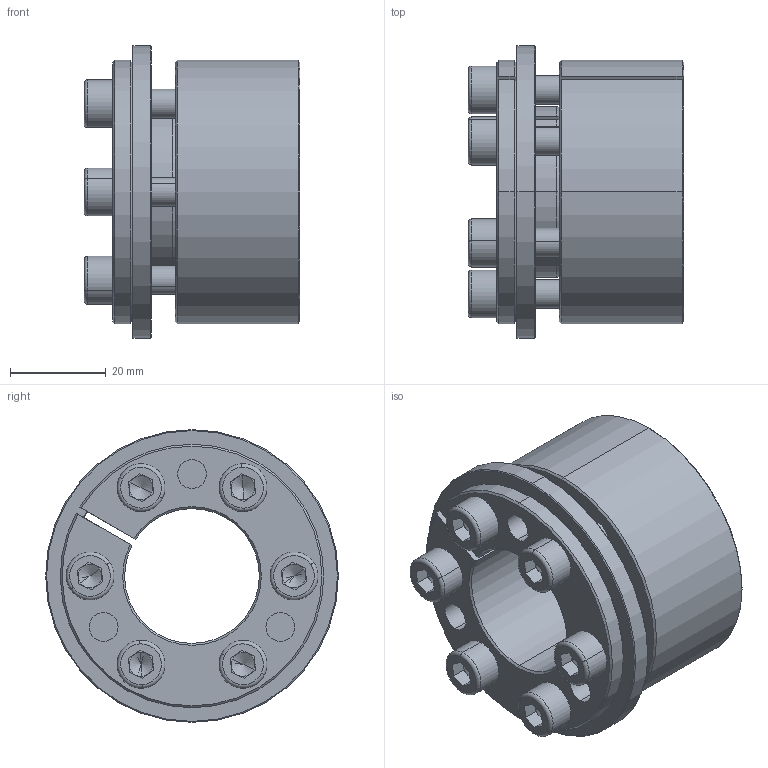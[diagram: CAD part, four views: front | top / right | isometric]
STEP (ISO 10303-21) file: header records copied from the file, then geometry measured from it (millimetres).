
FILE_DESCRIPTION (( 'STEP AP214' ), '1' );
FILE_NAME ('H5×°ÅäÌå28-55.STEP', '2022-07-26T02:00:40', ( '' ), ( '' ), 'SwSTEP 2.0', 'SolidWorks 2022', '' );
FILE_SCHEMA (( 'AUTOMOTIVE_DESIGN' ));
Length unit declared in the file: millimetre
Products named in the file (1): H5蚾饜极28-55
Bounding box: 45 x 61 x 61 mm (x, y, z)
Volume: 61928.1 mm3; surface area: 24829.2 mm2
Topology: 1 solids, 1 shells, 253 faces, 619 edges, 380 vertices
Faces by surface type: plane 100, cylinder 73, cone 68, torus 12
Entity records: 7478 total; most frequent: DIRECTION 1382, CARTESIAN_POINT 1313, ORIENTED_EDGE 1214, EDGE_CURVE 607, AXIS2_PLACEMENT_3D 545, VERTEX_POINT 380, EDGE_LOOP 297, LINE 292
